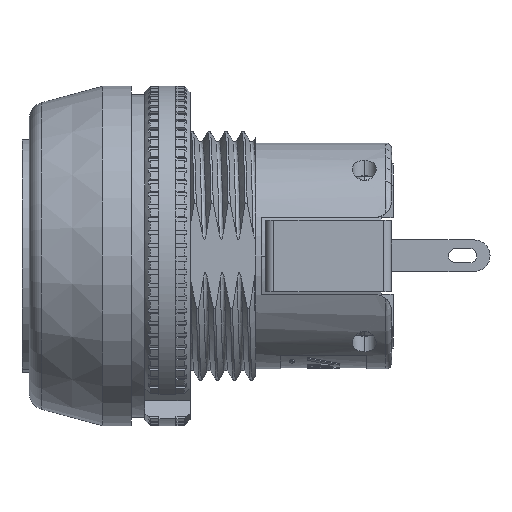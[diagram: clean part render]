
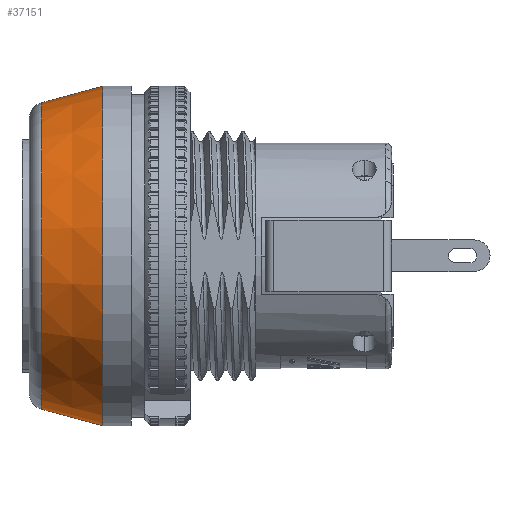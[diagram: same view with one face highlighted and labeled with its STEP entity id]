
A CAD part, left-side view. The second image highlights one B-rep face of the part: STEP entity #37151.
In plain terms, the highlighted conical face has half-angle 15 degrees and reference radius 15 mm.
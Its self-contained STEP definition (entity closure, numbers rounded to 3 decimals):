
#595 = ORIENTED_EDGE ( 'NONE', *, *, #23849, .T. ) ;
#1665 = CIRCLE ( 'NONE', #19165, 15. ) ;
#2291 = ORIENTED_EDGE ( 'NONE', *, *, #19268, .T. ) ;
#3049 = CARTESIAN_POINT ( 'NONE',  ( 0., 9.5, 0. ) ) ;
#6085 = CIRCLE ( 'NONE', #30672, 13.556 ) ;
#6895 = VERTEX_POINT ( 'NONE', #37215 ) ;
#8635 = CARTESIAN_POINT ( 'NONE',  ( 0., 14.888, 0. ) ) ;
#9385 = EDGE_CURVE ( 'NONE', #6895, #24285, #41818, .T. ) ;
#10457 = VECTOR ( 'NONE', #39277, 1000. ) ;
#10833 = CARTESIAN_POINT ( 'NONE',  ( 0., 9.5, 15. ) ) ;
#11099 = DIRECTION ( 'NONE',  ( 0., -1., 0. ) ) ;
#12730 = DIRECTION ( 'NONE',  ( 0., 0., 1. ) ) ;
#15457 = CARTESIAN_POINT ( 'NONE',  ( 0., 9.5, 15. ) ) ;
#19165 = AXIS2_PLACEMENT_3D ( 'NONE', #45722, #21185, #49830 ) ;
#19268 = EDGE_CURVE ( 'NONE', #21273, #38613, #47366, .T. ) ;
#19670 = CARTESIAN_POINT ( 'NONE',  ( 0., 9.5, -15. ) ) ;
#21185 = DIRECTION ( 'NONE',  ( 0., 1., 0. ) ) ;
#21273 = VERTEX_POINT ( 'NONE', #35070 ) ;
#22435 = AXIS2_PLACEMENT_3D ( 'NONE', #3049, #11099, #23577 ) ;
#23577 = DIRECTION ( 'NONE',  ( 0., 0., -1. ) ) ;
#23849 = EDGE_CURVE ( 'NONE', #38613, #24285, #1665, .T. ) ;
#24285 = VERTEX_POINT ( 'NONE', #15457 ) ;
#30672 = AXIS2_PLACEMENT_3D ( 'NONE', #8635, #37217, #12730 ) ;
#35070 = CARTESIAN_POINT ( 'NONE',  ( 0., 14.888, -13.556 ) ) ;
#35986 = EDGE_LOOP ( 'NONE', ( #38559, #42065, #2291, #595 ) ) ;
#37151 = ADVANCED_FACE ( 'NONE', ( #41851 ), #47587, .T. ) ;
#37215 = CARTESIAN_POINT ( 'NONE',  ( 0., 14.888, 13.556 ) ) ;
#37217 = DIRECTION ( 'NONE',  ( 0., 1., 0. ) ) ;
#37981 = DIRECTION ( 'NONE',  ( 0., -0.966, -0.259 ) ) ;
#38559 = ORIENTED_EDGE ( 'NONE', *, *, #9385, .F. ) ;
#38613 = VERTEX_POINT ( 'NONE', #19670 ) ;
#39277 = DIRECTION ( 'NONE',  ( 0., -0.966, 0.259 ) ) ;
#41818 = LINE ( 'NONE', #10833, #10457 ) ;
#41851 = FACE_OUTER_BOUND ( 'NONE', #35986, .T. ) ;
#42065 = ORIENTED_EDGE ( 'NONE', *, *, #46340, .F. ) ;
#42122 = CARTESIAN_POINT ( 'NONE',  ( 0., 9.5, -15. ) ) ;
#45722 = CARTESIAN_POINT ( 'NONE',  ( 0., 9.5, 0. ) ) ;
#46340 = EDGE_CURVE ( 'NONE', #21273, #6895, #6085, .T. ) ;
#47366 = LINE ( 'NONE', #42122, #51258 ) ;
#47587 = CONICAL_SURFACE ( 'NONE', #22435, 15., 0.262 ) ;
#49830 = DIRECTION ( 'NONE',  ( 0., 0., 1. ) ) ;
#51258 = VECTOR ( 'NONE', #37981, 1000. ) ;
